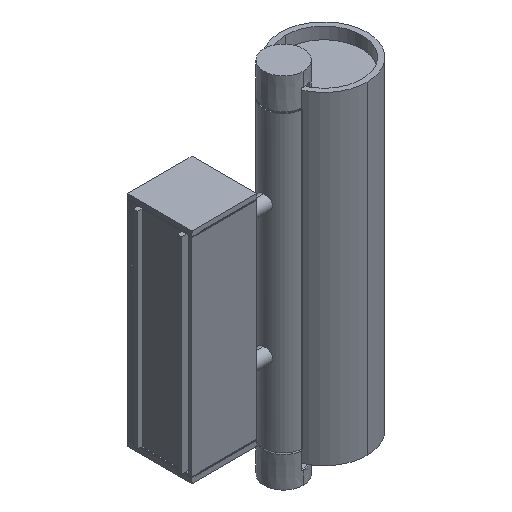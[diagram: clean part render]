
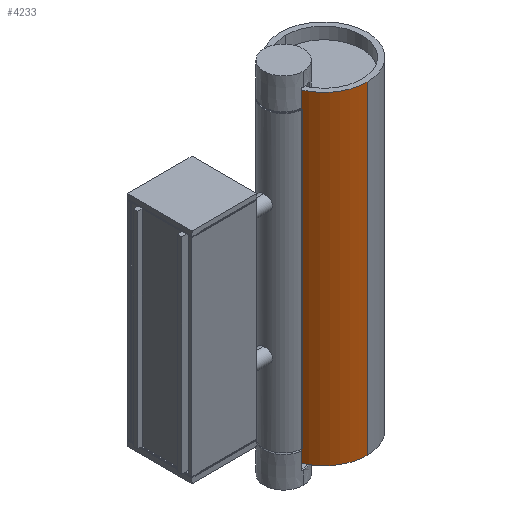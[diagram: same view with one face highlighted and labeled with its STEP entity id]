
A CAD part, isometric view. The second image highlights one B-rep face of the part: STEP entity #4233.
In plain terms, the highlighted cylindrical face has radius 29.4 mm (diameter 58.8 mm), a partial arc.
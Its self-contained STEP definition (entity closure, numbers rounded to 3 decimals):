
#54 = ORIENTED_EDGE ( 'NONE', *, *, #2321, .T. ) ;
#363 = CARTESIAN_POINT ( 'NONE',  ( 111.218, 1., 110. ) ) ;
#372 = CARTESIAN_POINT ( 'NONE',  ( 111.218, -28.4, 110. ) ) ;
#846 = CARTESIAN_POINT ( 'NONE',  ( 83.854, -9.75, 110. ) ) ;
#1346 = EDGE_CURVE ( 'NONE', #2381, #6230, #3337, .T. ) ;
#1570 = DIRECTION ( 'NONE',  ( 0., 0., -1. ) ) ;
#1649 = ORIENTED_EDGE ( 'NONE', *, *, #6949, .F. ) ;
#1789 = FACE_OUTER_BOUND ( 'NONE', #6792, .T. ) ;
#2321 = EDGE_CURVE ( 'NONE', #6230, #3353, #5129, .T. ) ;
#2381 = VERTEX_POINT ( 'NONE', #846 ) ;
#2573 = VERTEX_POINT ( 'NONE', #5976 ) ;
#2583 = DIRECTION ( 'NONE',  ( 0., 0., 1. ) ) ;
#2717 = DIRECTION ( 'NONE',  ( 0., 1., 0. ) ) ;
#2777 = AXIS2_PLACEMENT_3D ( 'NONE', #6081, #2583, #6684 ) ;
#3312 = DIRECTION ( 'NONE',  ( 0., 0., -1. ) ) ;
#3337 = LINE ( 'NONE', #7440, #7281 ) ;
#3353 = VERTEX_POINT ( 'NONE', #6098 ) ;
#3640 = VECTOR ( 'NONE', #3910, 1000. ) ;
#3728 = DIRECTION ( 'NONE',  ( 0., 0., 1. ) ) ;
#3791 = DIRECTION ( 'NONE',  ( 0., -1., 0. ) ) ;
#3910 = DIRECTION ( 'NONE',  ( 0., 0., -1. ) ) ;
#4213 = ORIENTED_EDGE ( 'NONE', *, *, #7092, .F. ) ;
#4233 = ADVANCED_FACE ( 'NONE', ( #1789 ), #6276, .T. ) ;
#4531 = CIRCLE ( 'NONE', #2777, 29.4 ) ;
#5129 = CIRCLE ( 'NONE', #5402, 29.4 ) ;
#5402 = AXIS2_PLACEMENT_3D ( 'NONE', #7234, #3728, #3791 ) ;
#5976 = CARTESIAN_POINT ( 'NONE',  ( 111.218, -28.4, 110. ) ) ;
#6057 = AXIS2_PLACEMENT_3D ( 'NONE', #363, #3312, #2717 ) ;
#6081 = CARTESIAN_POINT ( 'NONE',  ( 111.218, 1., 110. ) ) ;
#6098 = CARTESIAN_POINT ( 'NONE',  ( 111.218, -28.4, -110. ) ) ;
#6230 = VERTEX_POINT ( 'NONE', #7502 ) ;
#6276 = CYLINDRICAL_SURFACE ( 'NONE', #6057, 29.4 ) ;
#6327 = ORIENTED_EDGE ( 'NONE', *, *, #1346, .T. ) ;
#6684 = DIRECTION ( 'NONE',  ( 0., -1., 0. ) ) ;
#6746 = LINE ( 'NONE', #372, #3640 ) ;
#6792 = EDGE_LOOP ( 'NONE', ( #4213, #1649, #6327, #54 ) ) ;
#6949 = EDGE_CURVE ( 'NONE', #2381, #2573, #4531, .T. ) ;
#7092 = EDGE_CURVE ( 'NONE', #2573, #3353, #6746, .T. ) ;
#7234 = CARTESIAN_POINT ( 'NONE',  ( 111.218, 1., -110. ) ) ;
#7281 = VECTOR ( 'NONE', #1570, 1000. ) ;
#7440 = CARTESIAN_POINT ( 'NONE',  ( 83.854, -9.75, 110. ) ) ;
#7502 = CARTESIAN_POINT ( 'NONE',  ( 83.854, -9.75, -110. ) ) ;
